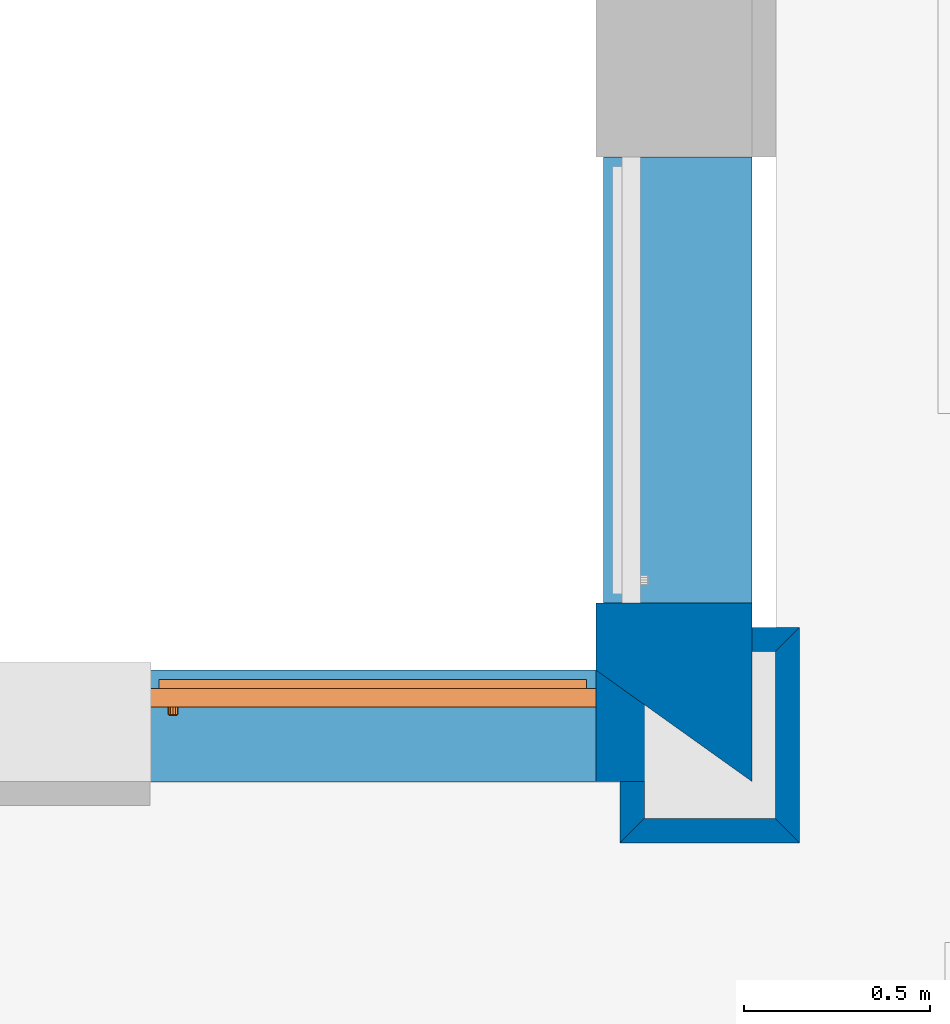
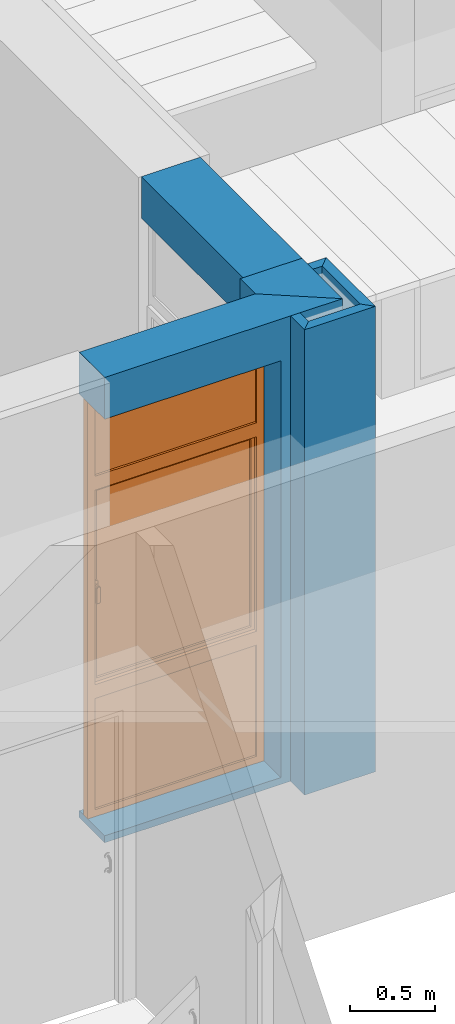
# One storey, part 33 of 68: 7 walls, 1 proxy, 2 openings.
"""IFC2X3 building model written with IfcOpenShell, lengths in millimetres."""

import ifcopenshell
import ifcopenshell.guid

model = None  # the IFC model being written
_history = None  # IfcOwnerHistory: only IFC2X3 demands one
_inside = {}  # id of a spatial element -> (the spatial element, [elements in it])
_under = {}  # id of a project, library or spatial element -> (it, [spatial elements below it])
_declared = {}  # id of a project -> (the project, [libraries it declares])
_typed = {}  # id of a type object -> (the type object, [elements of that type])
_made_of = {}  # id of a material, layer set ... -> (it, [elements and type objects made of it])


def new_model(schema):
    """Start an empty IFC model of exactly this schema.

    Asked for "IFC4X3", IfcOpenShell would pick the latest addendum, in which some entities
    have other attributes; the version numbers below select the first issue.
    IFC2X3 requires an IfcOwnerHistory on every rooted entity: one is made here for all.
    """
    global model, _history
    if schema == "IFC4X3":
        model = ifcopenshell.file(schema_version=(4, 3, 0, 0))
    else:
        model = ifcopenshell.file(schema=schema)
    _inside.clear()
    _under.clear()
    _declared.clear()
    _typed.clear()
    _made_of.clear()
    _history = None
    if model.schema == "IFC2X3":
        org = make("IfcOrganization", Name="unknown")
        user = make(
            "IfcPersonAndOrganization",
            ThePerson=make("IfcPerson", FamilyName="unknown"),
            TheOrganization=org,
        )
        app = make(
            "IfcApplication",
            ApplicationDeveloper=org,
            Version="unknown",
            ApplicationFullName="unknown",
            ApplicationIdentifier="unknown",
        )
        _history = make(
            "IfcOwnerHistory",
            OwningUser=user,
            OwningApplication=app,
            ChangeAction="ADDED",
            CreationDate=0,
        )
    return model


def make(cls, **values):
    """One entity of the class cls with the attributes given. An attribute that is None is left unset."""
    return model.create_entity(
        cls, **{name: value for name, value in values.items() if value is not None}
    )


def entity(cls, *values):
    """Any entity or typed value of the class cls, its attributes in the order of the schema. None: left unset."""
    e = model.create_entity(cls)
    for i, value in enumerate(values):
        if value is not None:
            e[i] = value
    return e


def rooted(cls, **values):
    """An entity with a GlobalId (a new one), such as an element, a storey or a relation."""
    return make(cls, GlobalId=ifcopenshell.guid.new(), OwnerHistory=_history, **values)


def si_unit(unit_type, name, prefix=None):
    """IfcSIUnit, for example si_unit("LENGTHUNIT", "METRE", prefix="MILLI")."""
    return make("IfcSIUnit", UnitType=unit_type, Prefix=prefix, Name=name)


def converted_unit(unit_type, name, factor, base, dimensions=None, offset=None):
    """IfcConversionBasedUnit, such as the inch: factor (a typed value) times the base unit."""
    return make(
        "IfcConversionBasedUnit"
        if offset is None
        else "IfcConversionBasedUnitWithOffset",
        ConversionOffset=offset,
        Dimensions=None
        if dimensions is None
        else entity("IfcDimensionalExponents", *dimensions),
        UnitType=unit_type,
        Name=name,
        ConversionFactor=make(
            "IfcMeasureWithUnit", ValueComponent=factor, UnitComponent=base
        ),
    )


def derived_unit(unit_type, elements):
    """IfcDerivedUnit: a product of units, each with its exponent."""
    return make(
        "IfcDerivedUnit",
        Elements=[
            make("IfcDerivedUnitElement", Unit=unit, Exponent=power)
            for unit, power in elements
        ],
        UnitType=unit_type,
    )


def money_unit(currency):
    """IfcMonetaryUnit."""
    return make("IfcMonetaryUnit", Currency=currency)


def assignment(units):
    """IfcUnitAssignment: the units of a project."""
    return None if units is None else make("IfcUnitAssignment", Units=units)


def point(xyz):
    """IfcCartesianPoint."""
    return None if xyz is None else make("IfcCartesianPoint", Coordinates=xyz)


def direction(xyz):
    """IfcDirection."""
    return None if xyz is None else make("IfcDirection", DirectionRatios=xyz)


def frame(location, z_axis=None, x_axis=None):
    """IfcAxis2Placement3D, a coordinate frame: its origin and axes. An axis left out is left unset."""
    return make(
        "IfcAxis2Placement3D",
        Location=point(location),
        Axis=direction(z_axis),
        RefDirection=direction(x_axis),
    )


def frame_2d(location, x_axis=None):
    """IfcAxis2Placement2D, a coordinate frame in the plane: its origin and x axis."""
    return make(
        "IfcAxis2Placement2D", Location=point(location), RefDirection=direction(x_axis)
    )


def origin_with_axes():
    """The frame at (0, 0, 0) with the z axis (0, 0, 1) and the x axis (1, 0, 0) written out."""
    return frame((0.0, 0.0, 0.0), z_axis=(0.0, 0.0, 1.0), x_axis=(1.0, 0.0, 0.0))


def origin_2d_with_axis():
    """The frame at (0, 0) in the plane with the x axis (1, 0) written out."""
    return frame_2d((0.0, 0.0), x_axis=(1.0, 0.0))


def place(relative_to, where):
    """IfcLocalPlacement: puts the frame where relative to a parent placement (None: the world)."""
    return make(
        "IfcLocalPlacement", PlacementRelTo=relative_to, RelativePlacement=where
    )


def context(
    kind, dimensions, precision=None, world=None, true_north=None, identifier=None
):
    """IfcGeometricRepresentationContext, for example the 3D "Model" context."""
    return make(
        "IfcGeometricRepresentationContext",
        ContextIdentifier=identifier,
        ContextType=kind,
        CoordinateSpaceDimension=dimensions,
        Precision=precision,
        WorldCoordinateSystem=world,
        TrueNorth=true_north,
    )


def subcontext(parent, identifier, kind, view, scale=None):
    """IfcGeometricRepresentationSubContext, for example "Body" below "Model"."""
    return make(
        "IfcGeometricRepresentationSubContext",
        ContextIdentifier=identifier,
        ContextType=kind,
        ParentContext=parent,
        TargetScale=scale,
        TargetView=view,
    )


def project(units=None, contexts=None):
    """IfcProject with its units and contexts."""
    return rooted(
        "IfcProject",
        Name="project",
        RepresentationContexts=contexts,
        UnitsInContext=assignment(units),
    )


def spatial(cls, under=None, at=None, **own):
    """A site, building, storey or space (cls), placed at a placement, below another one or the project."""
    s = rooted(cls, ObjectPlacement=at, **own)
    if under is not None:
        _under.setdefault(under.id(), (under, []))[1].append(s)
    return s


def polyline(points):
    """IfcPolyline through the points."""
    return make("IfcPolyline", Points=[point(p) for p in points])


def profile(cls, at=None, kind="AREA", **sizes):
    """A parametric profile (cls). Its sizes go by their IFC names, for example OverallWidth=200.0."""
    return make(cls, ProfileType=kind, Position=at, **sizes)


def rectangle(**sizes):
    """IfcRectangleProfileDef."""
    return profile("IfcRectangleProfileDef", **sizes)


def outline(outer, holes=None, kind="AREA"):
    """IfcArbitraryClosedProfileDef: a profile drawn as a closed curve; with holes, ...WithVoids."""
    if holes is None:
        return make("IfcArbitraryClosedProfileDef", ProfileType=kind, OuterCurve=outer)
    return make(
        "IfcArbitraryProfileDefWithVoids",
        ProfileType=kind,
        OuterCurve=outer,
        InnerCurves=holes,
    )


def extrude(swept, where, along, depth):
    """IfcExtrudedAreaSolid: the profile swept, set in the frame where, extruded along a direction by depth."""
    return make(
        "IfcExtrudedAreaSolid",
        SweptArea=swept,
        Position=where,
        ExtrudedDirection=direction(along),
        Depth=depth,
    )


def faces_of(points, faces, orient=None, outer=None):
    """IfcFace entities. A face is a list of loops; a loop is a list of indices into points, from 0.

    orient and outer hold one flag for each loop. By default every Orientation is true, the
    first loop of a face is its IfcFaceOuterBound and the others are IfcFaceBound.
    """
    made = []
    for i, loops in enumerate(faces):
        bounds = []
        for j, loop in enumerate(loops):
            is_outer = j == 0 if outer is None else outer[i][j]
            bounds.append(
                make(
                    "IfcFaceOuterBound" if is_outer else "IfcFaceBound",
                    Bound=make("IfcPolyLoop", Polygon=[points[k] for k in loop]),
                    Orientation=True if orient is None else orient[i][j],
                )
            )
        made.append(make("IfcFace", Bounds=bounds))
    return made


def open_shell(faces, orient=None, outer=None):
    """The faces of one IfcOpenShell. surface_model builds it on its shared points."""
    return ("IfcOpenShell", faces, orient, outer)


def faceted_brep(points, faces, orient=None, outer=None, voids=None):
    """IfcFacetedBrep: a solid bounded by flat faces; with voids (closed shells), ...WithVoids."""
    shared = [point(p) for p in points]
    hull = make("IfcClosedShell", CfsFaces=faces_of(shared, faces, orient, outer))
    if voids is None:
        return make("IfcFacetedBrep", Outer=hull)
    return make(
        "IfcFacetedBrepWithVoids",
        Outer=hull,
        Voids=[
            make(cls, CfsFaces=faces_of(shared, fs, o, b)) for cls, fs, o, b in voids
        ],
    )


def surface_model(cls, points, shells):
    """IfcFaceBasedSurfaceModel or IfcShellBasedSurfaceModel (cls): surfaces that need not close."""
    shared = [point(p) for p in points]
    made = [make(c, CfsFaces=faces_of(shared, fs, o, b)) for c, fs, o, b in shells]
    if cls == "IfcFaceBasedSurfaceModel":
        return make(cls, FbsmFaces=made)
    return make(cls, SbsmBoundary=made)


def shape(context_of_items, identifier, shape_type, items):
    """IfcShapeRepresentation: the items that make up one representation, for example the "Body"."""
    return make(
        "IfcShapeRepresentation",
        ContextOfItems=context_of_items,
        RepresentationIdentifier=identifier,
        RepresentationType=shape_type,
        Items=items,
    )


def source(mapping_origin, context_of_items, identifier, shape_type, items):
    """IfcRepresentationMap: a shape defined once, which mapped items show again and again."""
    return make(
        "IfcRepresentationMap",
        MappingOrigin=mapping_origin,
        MappedRepresentation=shape(context_of_items, identifier, shape_type, items),
    )


def transform(
    local_origin,
    x_axis=None,
    y_axis=None,
    z_axis=None,
    scale=None,
    scale2=None,
    scale3=None,
    uniform=True,
):
    """IfcCartesianTransformationOperator3D, or its non-uniform kind. x_axis, y_axis, z_axis: its Axis1, 2, 3."""
    if uniform:
        return make(
            "IfcCartesianTransformationOperator3D",
            Axis1=direction(x_axis),
            Axis2=direction(y_axis),
            LocalOrigin=point(local_origin),
            Scale=scale,
            Axis3=direction(z_axis),
        )
    return make(
        "IfcCartesianTransformationOperator3DnonUniform",
        Axis1=direction(x_axis),
        Axis2=direction(y_axis),
        LocalOrigin=point(local_origin),
        Scale=scale,
        Axis3=direction(z_axis),
        Scale2=scale2,
        Scale3=scale3,
    )


def mapped(mapping_source, mapping_target):
    """IfcMappedItem: shows the shape of a source again, moved by a transform."""
    return make(
        "IfcMappedItem", MappingSource=mapping_source, MappingTarget=mapping_target
    )


def material(Name=None, Category=None):
    """IfcMaterial."""
    return make("IfcMaterial", Name=Name, Category=Category)


def layer(
    of_material, thickness, ventilated=None, Name=None, Category=None, Priority=None
):
    """IfcMaterialLayer: one layer of a wall or slab, of a material (None: an air gap)."""
    return make(
        "IfcMaterialLayer",
        Material=of_material,
        LayerThickness=thickness,
        IsVentilated=ventilated,
        Name=Name,
        Category=Category,
        Priority=Priority,
    )


def layer_set(layers, Name=None):
    """IfcMaterialLayerSet."""
    return make("IfcMaterialLayerSet", MaterialLayers=layers, LayerSetName=Name)


def layer_usage(for_layer_set, set_direction, sense, offset, extent=None):
    """IfcMaterialLayerSetUsage: how a layer set lies in its element."""
    return make(
        "IfcMaterialLayerSetUsage",
        ForLayerSet=for_layer_set,
        LayerSetDirection=set_direction,
        DirectionSense=sense,
        OffsetFromReferenceLine=offset,
        ReferenceExtent=extent,
    )


def made_of(thing, what):
    """Note that an element or type object is made of a material, layer set ...; save() writes the relation."""
    if what is not None:
        _made_of.setdefault(what.id(), (what, []))[1].append(thing)
    return thing


def type_object(cls, material=None, **own):
    """A type object (cls), such as IfcWallType, which elements share."""
    return made_of(rooted(cls, **own), material)


def element(
    cls,
    number,
    at=None,
    inside=None,
    cuts=None,
    type_object=None,
    material=None,
    context=None,
    identifier="Body",
    shape_type=None,
    held_by="IfcProductDefinitionShape",
    body=None,
    shapes=None,
    **own,
):
    """One element of the class cls, such as IfcWall. Its Tag is "e" and its number.

    at: its placement. inside: the storey or other place that contains it. cuts: it is an
    opening in that element (IfcRelVoidsElement). A single representation is given by context,
    identifier, shape_type and body (its items); several are given by shapes. held_by: the class
    of the entity that holds the representations. save() writes the other relations.
    """
    e = rooted(cls, Tag="e%d" % number, ObjectPlacement=at, **own)
    if body is not None:
        shapes = [shape(context, identifier, shape_type, body)]
    if shapes is not None:
        e.Representation = make(held_by, Representations=shapes)
    if inside is not None:
        _inside.setdefault(inside.id(), (inside, []))[1].append(e)
    if cuts is not None:
        rooted(
            "IfcRelVoidsElement", RelatingBuildingElement=cuts, RelatedOpeningElement=e
        )
    if type_object is not None:
        _typed.setdefault(type_object.id(), (type_object, []))[1].append(e)
    return made_of(e, material)


def fill(opening, filler):
    """IfcRelFillsElement: the door or window that sits in an opening."""
    return rooted(
        "IfcRelFillsElement",
        RelatingOpeningElement=opening,
        RelatedBuildingElement=filler,
    )


def aggregate(whole, parts):
    """IfcRelAggregates: a whole, such as a stair, and the parts it consists of."""
    return rooted("IfcRelAggregates", RelatingObject=whole, RelatedObjects=parts)


def save(model, path):
    """Write the relations noted so far, then the file.

    IfcRelAggregates (storeys below a building ...), IfcRelContainedInSpatialStructure (elements
    in a storey), IfcRelDefinesByType, IfcRelAssociatesMaterial and IfcRelDeclares: one each for
    every whole, place, type object, material and project.
    """
    for whole, parts in _under.values():
        aggregate(whole, parts)
    for where, things in _inside.values():
        rooted(
            "IfcRelContainedInSpatialStructure",
            RelatedElements=things,
            RelatingStructure=where,
        )
    for kind, things in _typed.values():
        rooted("IfcRelDefinesByType", RelatedObjects=things, RelatingType=kind)
    for what, things in _made_of.values():
        rooted("IfcRelAssociatesMaterial", RelatedObjects=things, RelatingMaterial=what)
    for by, libraries in _declared.values():
        rooted("IfcRelDeclares", RelatingContext=by, RelatedDefinitions=libraries)
    model.write(path)


model = new_model("IFC2X3")

# Units and contexts
model_context = context("Model", 3, precision=0.01, world=origin_with_axes(), true_north=direction((0.0, 1.0)))
body_context = subcontext(model_context, "Body", "Model", "MODEL_VIEW")
ifc_project = project(units=[si_unit("LENGTHUNIT", "METRE", prefix="MILLI"), si_unit("AREAUNIT", "SQUARE_METRE"), si_unit("VOLUMEUNIT", "CUBIC_METRE"), converted_unit("PLANEANGLEUNIT", "DEGREE", entity("IfcPlaneAngleMeasure", 0.0174532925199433), si_unit("PLANEANGLEUNIT", "RADIAN"), dimensions=[0, 0, 0, 0, 0, 0, 0]), money_unit("USD"), converted_unit("TIMEUNIT", "Year", entity("IfcTimeMeasure", 31557600.0), si_unit("TIMEUNIT", "SECOND"), dimensions=[0, 0, 1, 0, 0, 0, 0]), si_unit("MASSUNIT", "GRAM", prefix="KILO"), si_unit("THERMODYNAMICTEMPERATUREUNIT", "DEGREE_CELSIUS"), si_unit("LUMINOUSINTENSITYUNIT", "LUMEN"), si_unit("ENERGYUNIT", "JOULE", prefix="MEGA"), derived_unit("THERMALCONDUCTANCEUNIT", [(si_unit("POWERUNIT", "WATT"), 1), (si_unit("LENGTHUNIT", "METRE"), -1), (si_unit("THERMODYNAMICTEMPERATUREUNIT", "KELVIN"), -1)]), derived_unit("SPECIFICHEATCAPACITYUNIT", [(si_unit("ENERGYUNIT", "JOULE"), 1), (si_unit("MASSUNIT", "GRAM", prefix="KILO"), -1), (si_unit("THERMODYNAMICTEMPERATUREUNIT", "KELVIN"), -1)]), derived_unit("MASSDENSITYUNIT", [(si_unit("MASSUNIT", "GRAM", prefix="KILO"), 1), (si_unit("VOLUMEUNIT", "CUBIC_METRE"), -1)])], contexts=[model_context])

# Site, building, storey
site_placement = place(None, origin_with_axes())
site = spatial("IfcSite", under=ifc_project, at=site_placement, Name="Sitio", CompositionType="ELEMENT")
building_placement = place(site_placement, origin_with_axes())
building = spatial("IfcBuilding", under=site, at=building_placement, Name="Construcción", CompositionType="ELEMENT")
storey_placement = place(building_placement, origin_with_axes())
storey = spatial("IfcBuildingStorey", under=building, at=storey_placement, Name="PLANTA 1ª", CompositionType="ELEMENT", Elevation=0.0)

# Wall, opening, proxy
ifc_material_1 = material(Name="ARQ_AM246_Arrebossat_De_Guix")
ifc_layer_1 = layer(ifc_material_1, 20.0, ventilated="UNKNOWN")
ifc_material_2 = material(Name="ARQ_CE217_Gero")
ifc_layer_2 = layer(ifc_material_2, 110.0, ventilated="UNKNOWN")
ifc_material_3 = material(Name="ARQ_AI031_Aillament_Poliestireno expandido EPS")
ifc_layer_3 = layer(ifc_material_3, 100.0, ventilated="UNKNOWN")
ifc_material_4 = material(Name="ARQ_CE218_Ceramic")
ifc_layer_4 = layer(ifc_material_4, 50.0, ventilated="UNKNOWN")
ifc_layer_5 = layer(ifc_material_1, 20.0, ventilated="UNKNOWN")
ifc_layer_set_1 = layer_set([ifc_layer_1, ifc_layer_2, ifc_layer_3, ifc_layer_4, ifc_layer_5], Name="façana pati CR3 (ampit)")
ifc_layer_usage_1 = layer_usage(ifc_layer_set_1, "AXIS2", "POSITIVE", -300.0000000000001)
wall_type_1 = type_object("IfcWallType", Name="façana pati CR3 (ampit) 300", PredefinedType="NOTDEFINED")
wall_1_placement = place(storey_placement, frame((-1681.109004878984, -12338.97582371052, 0.0), z_axis=(0.0, 0.0, 1.0), x_axis=(-1.0, 0.0, 0.0)))
wall_1 = element("IfcWallStandardCase", 1, at=wall_1_placement, inside=storey, type_object=wall_type_1, material=ifc_layer_usage_1, Name="MS-201", context=body_context, shape_type="SweptSolid", body=[
    extrude(outline(polyline([(419.9999999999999, -300.0000000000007), (1620.000000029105, -300.0000000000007), (1620.000000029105, 0.0), (0.0, 0.0), (419.9999999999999, -300.0000000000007)])), origin_with_axes(), (0.0, 0.0, 1.0), 3350.0),
])
opening_1_placement = place(wall_1_placement, frame((1020.000000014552, 0.0, 50.0), z_axis=(0.0, 0.0, 1.0), x_axis=(1.0, 0.0, 0.0)))
opening_1 = element("IfcOpeningElement", 2, at=opening_1_placement, cuts=wall_1, Name="F01", context=body_context, shape_type="SweptSolid", body=[
    extrude(rectangle(XDim=1200.000000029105, YDim=3000.0, at=origin_2d_with_axis()), frame((0.0, -250.0, 1500.0), z_axis=(0.0, -1.0, 0.0), x_axis=(-1.0, 0.0, 0.0)), (0.0, 0.0, -1.0), 550.0),
    extrude(rectangle(XDim=1200.000000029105, YDim=3000.0, at=origin_2d_with_axis()), frame((0.0, -250.0, 1500.0), z_axis=(0.0, 1.0, 0.0), x_axis=(-1.0, 0.0, 0.0)), (0.0, 0.0, -1.0), 350.0000000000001),
])
building_element_proxy_type = type_object("IfcBuildingElementProxyType", Name="Ventana Vertical Multi-Faja 27", PredefinedType="NOTDEFINED")
shared_shape = source(origin_with_axes(), body_context, "Body", "SurfaceModel", [
    faceted_brep([(-575.0000000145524, 0.0, 925.0), (-550.0000000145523, 0.0, 925.0), (-550.0000000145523, 0.0, 850.0), (-550.0000000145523, 0.0, 50.00000000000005), (-600.0000000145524, 0.0, 50.00000000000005), (-600.0000000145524, 0.0, 2950.0), (-550.0000000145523, 0.0, 2950.0), (-550.0000000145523, 0.0, 2450.0), (-550.0000000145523, 0.0, 2375.0), (-575.0000000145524, 0.0, 2375.0), (-575.0000000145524, -25.00000000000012, 925.0), (-550.0000000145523, -25.00000000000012, 925.0), (-550.0000000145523, -25.00000000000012, 950.0000000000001), (-550.0000000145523, -50.00000000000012, 950.0000000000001), (-550.0000000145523, -50.00000000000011, 850.0), (-550.0000000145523, -50.00000000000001, 50.00000000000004), (-600.0000000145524, -50.00000000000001, 50.00000000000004), (-600.0000000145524, -50.00000000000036, 2950.0), (-550.0000000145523, -50.00000000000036, 2950.0), (-550.0000000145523, -50.0000000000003, 2450.0), (-550.0000000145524, -25.00000000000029, 2375.0), (-550.0000000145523, -50.00000000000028, 2350.0), (-550.0000000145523, -25.00000000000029, 2350.0), (-575.0000000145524, -25.00000000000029, 2375.0)], [[[0, 1, 2, 3, 4, 5, 6, 7, 8, 9]], [[0, 10, 11, 1]], [[11, 12, 13, 14, 2, 1]], [[3, 2, 14, 15]], [[4, 3, 15, 16]], [[5, 4, 16, 17]], [[6, 5, 17, 18]], [[7, 6, 18, 19]], [[20, 8, 7, 19, 21, 22]], [[20, 23, 9, 8]], [[9, 23, 10, 0]], [[22, 12, 11, 10, 23, 20]], [[22, 21, 13, 12]], [[17, 16, 15, 14, 13, 21, 19, 18]]]),
    faceted_brep([(575.0000000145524, 0.0, 925.0), (575.0000000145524, 0.0, 2375.0), (550.0000000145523, 0.0, 2375.0), (550.0000000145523, 0.0, 2450.0), (550.0000000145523, 0.0, 2950.0), (600.0000000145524, 0.0, 2950.0), (600.0000000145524, 0.0, 50.00000000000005), (550.0000000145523, 0.0, 50.00000000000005), (550.0000000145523, 0.0, 850.0), (550.0000000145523, 0.0, 925.0), (575.0000000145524, -25.00000000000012, 925.0), (575.0000000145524, -25.00000000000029, 2375.0), (550.0000000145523, -25.00000000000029, 2375.0), (550.0000000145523, -25.00000000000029, 2350.0), (550.0000000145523, -50.00000000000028, 2350.0), (550.0000000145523, -50.0000000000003, 2450.0), (550.0000000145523, -50.00000000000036, 2950.0), (600.0000000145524, -50.00000000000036, 2950.0), (600.0000000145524, -50.00000000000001, 50.00000000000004), (550.0000000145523, -50.00000000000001, 50.00000000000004), (550.0000000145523, -50.00000000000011, 850.0), (550.0000000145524, -25.00000000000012, 925.0), (550.0000000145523, -50.00000000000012, 950.0000000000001), (550.0000000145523, -25.00000000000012, 950.0000000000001)], [[[0, 1, 2, 3, 4, 5, 6, 7, 8, 9]], [[0, 10, 11, 1]], [[1, 11, 12, 2]], [[12, 13, 14, 15, 3, 2]], [[4, 3, 15, 16]], [[5, 4, 16, 17]], [[6, 5, 17, 18]], [[7, 6, 18, 19]], [[8, 7, 19, 20]], [[21, 9, 8, 20, 22, 23]], [[9, 21, 10, 0]], [[12, 11, 10, 21, 23, 13]], [[23, 22, 14, 13]], [[14, 22, 20, 19, 18, 17, 16, 15]]]),
    faceted_brep([(-550.0000000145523, -25.00000000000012, 950.0000000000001), (-550.0000000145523, -50.00000000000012, 950.0000000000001), (550.0000000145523, -50.00000000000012, 950.0000000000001), (550.0000000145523, -25.00000000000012, 950.0000000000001), (-550.0000000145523, -25.00000000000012, 925.0), (-550.0000000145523, 0.0, 925.0), (-550.0000000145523, 0.0, 850.0), (-550.0000000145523, -50.00000000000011, 850.0), (550.0000000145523, -50.00000000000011, 850.0), (550.0000000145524, -25.00000000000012, 925.0), (550.0000000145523, 0.0, 850.0), (550.0000000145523, 0.0, 925.0)], [[[0, 1, 2, 3]], [[4, 5, 6, 7, 1, 0]], [[1, 7, 8, 2]], [[9, 3, 2, 8, 10, 11]], [[9, 4, 0, 3]], [[5, 4, 9, 11]], [[11, 10, 6, 5]], [[6, 10, 8, 7]]]),
    faceted_brep([(-550.0000000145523, 0.0, 2375.0), (-550.0000000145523, 0.0, 2450.0), (550.0000000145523, 0.0, 2450.0), (550.0000000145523, 0.0, 2375.0), (-550.0000000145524, -25.00000000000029, 2375.0), (-550.0000000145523, -25.00000000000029, 2350.0), (-550.0000000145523, -50.00000000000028, 2350.0), (-550.0000000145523, -50.0000000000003, 2450.0), (550.0000000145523, -50.0000000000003, 2450.0), (550.0000000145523, -25.00000000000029, 2375.0), (550.0000000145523, -50.00000000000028, 2350.0), (550.0000000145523, -25.00000000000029, 2350.0)], [[[0, 1, 2, 3]], [[4, 5, 6, 7, 1, 0]], [[2, 1, 7, 8]], [[9, 3, 2, 8, 10, 11]], [[9, 4, 0, 3]], [[11, 5, 4, 9]], [[11, 10, 6, 5]], [[7, 6, 10, 8]]]),
    faceted_brep([(550.0000000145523, -50.00000000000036, 2950.0), (550.0000000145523, 0.0, 2950.0), (600.0000000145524, 0.0, 2950.0), (600.0000000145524, -50.00000000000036, 2950.0), (-550.0000000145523, -50.00000000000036, 2950.0), (-550.0000000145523, 0.0, 2950.0), (-600.0000000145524, 0.0, 2950.0), (-600.0000000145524, 0.0, 3000.0), (600.0000000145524, 0.0, 3000.0), (600.0000000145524, -50.00000000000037, 3000.0), (-600.0000000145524, -50.00000000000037, 3000.0), (-600.0000000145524, -50.00000000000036, 2950.0)], [[[0, 1, 2, 3]], [[4, 5, 1, 0]], [[1, 5, 6, 7, 8, 2]], [[3, 2, 8, 9]], [[0, 3, 9, 10, 11, 4]], [[11, 6, 5, 4]], [[10, 7, 6, 11]], [[9, 8, 7, 10]]]),
    faceted_brep([(-550.0000000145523, -50.00000000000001, 50.0), (-550.0000000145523, 0.0, 50.00000000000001), (-600.0000000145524, 0.0, 50.00000000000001), (-600.0000000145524, -50.00000000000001, 50.0), (550.0000000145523, -50.00000000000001, 50.0), (550.0000000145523, 0.0, 50.00000000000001), (600.0000000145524, 0.0, 50.00000000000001), (600.0000000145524, 0.0, 0.0), (-600.0000000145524, 0.0, 0.0), (-600.0000000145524, -50.0, 0.0), (600.0000000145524, -50.0, 0.0), (600.0000000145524, -50.00000000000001, 50.0)], [[[0, 1, 2, 3]], [[4, 5, 1, 0]], [[1, 5, 6, 7, 8, 2]], [[3, 2, 8, 9]], [[0, 3, 9, 10, 11, 4]], [[11, 6, 5, 4]], [[10, 7, 6, 11]], [[9, 8, 7, 10]]]),
    surface_model("IfcShellBasedSurfaceModel", [(-550.0000000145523, -35.0, 49.99999999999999), (550.0000000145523, -35.0, 49.99999999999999), (550.0000000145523, -35.0000000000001, 850.0), (-550.0000000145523, -35.0000000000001, 850.0)], [open_shell([[[0, 1, 2, 3]]])]),
    surface_model("IfcShellBasedSurfaceModel", [(-550.0000000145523, -15.0, 49.99999999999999), (-550.0000000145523, -15.0000000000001, 850.0), (550.0000000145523, -15.0000000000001, 850.0), (550.0000000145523, -15.0, 49.99999999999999)], [open_shell([[[0, 1, 2, 3]]])]),
    faceted_brep([(-521.5000000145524, -25.00000000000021, 1677.0), (-522.839745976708, -25.00000000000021, 1682.0), (-522.839745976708, -37.00000000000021, 1682.0), (-521.5000000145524, -37.00000000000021, 1677.0), (-521.5000000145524, -25.0000000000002, 1623.0), (-522.839745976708, -25.0000000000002, 1618.0), (-526.5000000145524, -25.0000000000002, 1614.339745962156), (-531.5000000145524, -25.0000000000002, 1613.0), (-543.5000000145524, -25.0000000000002, 1613.0), (-548.5000000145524, -25.0000000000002, 1614.339745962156), (-552.1602540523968, -25.0000000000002, 1618.0), (-553.5000000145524, -25.0000000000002, 1623.0), (-553.5000000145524, -25.00000000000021, 1677.0), (-552.1602540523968, -25.00000000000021, 1682.0), (-548.5000000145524, -25.00000000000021, 1685.660254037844), (-543.5000000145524, -25.00000000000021, 1687.0), (-531.5000000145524, -25.00000000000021, 1687.0), (-526.5000000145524, -25.00000000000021, 1685.660254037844), (-526.5000000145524, -37.00000000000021, 1685.660254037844), (-531.5000000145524, -37.00000000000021, 1687.0), (-543.5000000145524, -37.00000000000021, 1687.0), (-548.5000000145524, -37.00000000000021, 1685.660254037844), (-552.1602540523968, -37.00000000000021, 1682.0), (-553.5000000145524, -37.00000000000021, 1677.0), (-553.5000000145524, -37.0000000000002, 1623.0), (-552.1602540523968, -37.0000000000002, 1618.0), (-548.5000000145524, -37.0000000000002, 1614.339745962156), (-543.5000000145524, -37.0000000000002, 1613.0), (-531.5000000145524, -37.0000000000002, 1613.0), (-526.5000000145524, -37.0000000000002, 1614.339745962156), (-522.839745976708, -37.0000000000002, 1618.0), (-521.5000000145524, -37.0000000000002, 1623.0)], [[[0, 1, 2, 3]], [[0, 4, 5, 6, 7, 8, 9, 10, 11, 12, 13, 14, 15, 16, 17, 1]], [[1, 17, 18, 2]], [[3, 2, 18, 19, 20, 21, 22, 23, 24, 25, 26, 27, 28, 29, 30, 31]], [[4, 0, 3, 31]], [[5, 4, 31, 30]], [[6, 5, 30, 29]], [[7, 6, 29, 28]], [[8, 7, 28, 27]], [[9, 8, 27, 26]], [[10, 9, 26, 25]], [[11, 10, 25, 24]], [[12, 11, 24, 23]], [[13, 12, 23, 22]], [[14, 13, 22, 21]], [[15, 14, 21, 20]], [[16, 15, 20, 19]], [[17, 16, 19, 18]]]),
    faceted_brep([(-537.5000000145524, -37.0000000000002, 1663.5), (-544.2500000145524, -37.0000000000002, 1661.69134295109), (-544.2500000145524, -61.00000000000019, 1661.69134295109), (-537.5000000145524, -61.00000000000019, 1663.5), (-530.7500000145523, -37.0000000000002, 1661.69134295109), (-525.8086570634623, -37.0000000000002, 1656.75), (-524.0000000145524, -37.0000000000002, 1650.0), (-525.8086570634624, -37.0000000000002, 1643.25), (-530.7500000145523, -37.0000000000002, 1638.30865704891), (-537.5000000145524, -37.0000000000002, 1636.5), (-544.2500000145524, -37.0000000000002, 1638.30865704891), (-549.1913429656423, -37.0000000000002, 1643.25), (-551.0000000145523, -37.0000000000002, 1650.0), (-549.1913429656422, -37.0000000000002, 1656.75), (-549.1913429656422, -61.00000000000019, 1656.75), (-551.0000000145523, -61.00000000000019, 1650.0), (-549.1913429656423, -61.00000000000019, 1643.25), (-544.2500000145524, -61.00000000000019, 1638.30865704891), (-537.5000000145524, -61.00000000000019, 1636.5), (-530.7500000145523, -61.00000000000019, 1638.30865704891), (-525.8086570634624, -61.00000000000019, 1643.25), (-524.0000000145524, -61.00000000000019, 1650.0), (-525.8086570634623, -61.00000000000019, 1656.75), (-530.7500000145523, -61.00000000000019, 1661.69134295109)], [[[0, 1, 2, 3]], [[0, 4, 5, 6, 7, 8, 9, 10, 11, 12, 13, 1]], [[1, 13, 14, 2]], [[3, 2, 14, 15, 16, 17, 18, 19, 20, 21, 22, 23]], [[4, 0, 3, 23]], [[5, 4, 23, 22]], [[6, 5, 22, 21]], [[7, 6, 21, 20]], [[8, 7, 20, 19]], [[9, 8, 19, 18]], [[10, 9, 18, 17]], [[11, 10, 17, 16]], [[12, 11, 16, 15]], [[13, 12, 15, 14]]]),
    faceted_brep([(-526.0000000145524, -61.00000000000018, 1543.0), (-537.5000000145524, -61.00000000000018, 1540.0), (-549.0000000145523, -61.00000000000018, 1543.0), (-551.0000000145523, -61.00000000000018, 1546.0), (-551.0000000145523, -61.00000000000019, 1650.0), (-549.1913429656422, -61.00000000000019, 1656.75), (-544.2500000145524, -61.00000000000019, 1661.69134295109), (-537.5000000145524, -61.00000000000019, 1663.5), (-530.7500000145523, -61.00000000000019, 1661.69134295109), (-525.8086570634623, -61.00000000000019, 1656.75), (-524.0000000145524, -61.00000000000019, 1650.0), (-524.0000000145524, -61.00000000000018, 1546.0), (-525.9999999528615, -69.00000000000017, 1543.000000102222), (-537.4999999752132, -69.00000000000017, 1539.999999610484), (-548.9999999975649, -69.00000000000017, 1543.000000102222), (-551.0000003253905, -69.00000000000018, 1545.999999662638), (-551.0000003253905, -69.0000000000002, 1649.99999994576), (-549.1913430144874, -69.0000000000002, 1656.749999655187), (-544.2499996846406, -69.0000000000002, 1661.691342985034), (-537.4999999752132, -69.0000000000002, 1663.500000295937), (-530.7500002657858, -69.0000000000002, 1661.691342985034), (-525.808656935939, -69.0000000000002, 1656.749999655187), (-523.9999996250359, -69.0000000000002, 1649.99999994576), (-523.9999996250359, -69.00000000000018, 1545.999999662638), (-527.8625374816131, -71.99999956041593, 1545.61451963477), (-537.4999999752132, -71.99999956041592, 1543.100398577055), (-547.1374624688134, -71.99999956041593, 1545.61451963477), (-548.0000007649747, -71.99999956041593, 1546.908326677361), (-548.0000007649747, -71.99999956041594, 1649.605042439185), (-546.5016170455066, -71.99999956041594, 1655.197085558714), (-542.6970855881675, -71.99999956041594, 1659.001617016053), (-537.4999999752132, -71.99999956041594, 1660.394172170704), (-532.302914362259, -71.99999956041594, 1659.001617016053), (-528.4983829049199, -71.99999956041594, 1655.197085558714), (-526.9999991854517, -71.99999956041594, 1649.605042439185), (-526.9999991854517, -71.99999956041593, 1546.908326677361)], [[[0, 1, 2, 3, 4, 5, 6, 7, 8, 9, 10, 11]], [[1, 0, 12, 13]], [[2, 1, 13, 14]], [[3, 2, 14, 15]], [[4, 3, 15, 16]], [[5, 4, 16, 17]], [[6, 5, 17, 18]], [[7, 6, 18, 19]], [[8, 7, 19, 20]], [[9, 8, 20, 21]], [[10, 9, 21, 22]], [[11, 10, 22, 23]], [[0, 11, 23, 12]], [[13, 12, 24, 25]], [[14, 13, 25, 26]], [[15, 14, 26, 27]], [[16, 15, 27, 28]], [[17, 16, 28, 29]], [[18, 17, 29, 30]], [[19, 18, 30, 31]], [[20, 19, 31, 32]], [[21, 20, 32, 33]], [[22, 21, 33, 34]], [[23, 22, 34, 35]], [[12, 23, 35, 24]], [[26, 25, 24, 35, 34, 33, 32, 31, 30, 29, 28, 27]]]),
    faceted_brep([(-525.0000000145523, -25.00000000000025, 2325.0), (-525.0000000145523, 24.99999999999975, 2325.0), (-575.0000000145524, 24.99999999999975, 2325.0), (-575.0000000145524, -25.00000000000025, 2325.0), (-525.0000000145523, -25.00000000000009, 975.0000000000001), (-525.0000000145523, 24.99999999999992, 975.0000000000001), (-575.0000000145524, 24.99999999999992, 975.0000000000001), (-575.0000000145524, -25.00000000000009, 975.0000000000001)], [[[0, 1, 2, 3]], [[4, 5, 1, 0]], [[1, 5, 6, 2]], [[3, 2, 6, 7]], [[0, 3, 7, 4]], [[7, 6, 5, 4]]]),
    faceted_brep([(525.0000000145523, -25.00000000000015, 975.0000000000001), (525.0000000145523, 24.99999999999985, 975.0000000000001), (575.0000000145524, 24.99999999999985, 975.0000000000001), (575.0000000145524, -25.00000000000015, 975.0000000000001), (525.0000000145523, -25.00000000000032, 2325.0), (525.0000000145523, 24.99999999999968, 2325.0), (575.0000000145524, 24.99999999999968, 2325.0), (575.0000000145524, -25.00000000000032, 2325.0)], [[[0, 1, 2, 3]], [[4, 5, 1, 0]], [[1, 5, 6, 2]], [[3, 2, 6, 7]], [[0, 3, 7, 4]], [[7, 6, 5, 4]]]),
    faceted_brep([(575.0000000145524, -25.00000000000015, 925.0), (575.0000000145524, 24.99999999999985, 925.0), (575.0000000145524, 24.99999999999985, 975.0000000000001), (575.0000000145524, -25.00000000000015, 975.0000000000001), (-575.0000000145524, -25.00000000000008, 925.0), (-575.0000000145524, 24.99999999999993, 925.0), (-575.0000000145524, 24.99999999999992, 975.0000000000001), (-525.0000000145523, 24.99999999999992, 975.0000000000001), (525.0000000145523, 24.99999999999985, 975.0000000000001), (525.0000000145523, -25.00000000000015, 975.0000000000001), (-525.0000000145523, -25.00000000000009, 975.0000000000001), (-575.0000000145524, -25.00000000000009, 975.0000000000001)], [[[0, 1, 2, 3]], [[4, 5, 1, 0]], [[1, 5, 6, 7, 8, 2]], [[3, 2, 8, 9]], [[0, 3, 9, 10, 11, 4]], [[11, 6, 5, 4]], [[10, 7, 6, 11]], [[9, 8, 7, 10]]]),
    faceted_brep([(-575.0000000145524, -25.00000000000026, 2375.0), (-575.0000000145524, 24.99999999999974, 2375.0), (-575.0000000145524, 24.99999999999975, 2325.0), (-575.0000000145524, -25.00000000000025, 2325.0), (575.0000000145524, -25.00000000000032, 2375.0), (575.0000000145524, 24.99999999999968, 2375.0), (575.0000000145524, 24.99999999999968, 2325.0), (525.0000000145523, 24.99999999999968, 2325.0), (-525.0000000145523, 24.99999999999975, 2325.0), (-525.0000000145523, -25.00000000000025, 2325.0), (525.0000000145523, -25.00000000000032, 2325.0), (575.0000000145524, -25.00000000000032, 2325.0)], [[[0, 1, 2, 3]], [[4, 5, 1, 0]], [[1, 5, 6, 7, 8, 2]], [[3, 2, 8, 9]], [[0, 3, 9, 10, 11, 4]], [[11, 6, 5, 4]], [[10, 7, 6, 11]], [[9, 8, 7, 10]]]),
    surface_model("IfcShellBasedSurfaceModel", [(-525.0000000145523, -10.00000000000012, 975.0000000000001), (525.0000000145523, -10.00000000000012, 975.0000000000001), (525.0000000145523, -10.00000000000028, 2325.0), (-525.0000000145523, -10.00000000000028, 2325.0)], [open_shell([[[0, 1, 2, 3]]])]),
    surface_model("IfcShellBasedSurfaceModel", [(-525.0000000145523, 9.999999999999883, 975.0000000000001), (-525.0000000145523, 9.99999999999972, 2325.0), (525.0000000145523, 9.99999999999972, 2325.0), (525.0000000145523, 9.999999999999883, 975.0000000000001)], [open_shell([[[0, 1, 2, 3]]])]),
    surface_model("IfcShellBasedSurfaceModel", [(-550.0000000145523, -35.0000000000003, 2450.0), (550.0000000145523, -35.0000000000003, 2450.0), (550.0000000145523, -35.00000000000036, 2950.0), (-550.0000000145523, -35.00000000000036, 2950.0)], [open_shell([[[0, 1, 2, 3]]])]),
    surface_model("IfcShellBasedSurfaceModel", [(-550.0000000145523, -15.0000000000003, 2450.0), (-550.0000000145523, -15.00000000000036, 2950.0), (550.0000000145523, -15.00000000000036, 2950.0), (550.0000000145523, -15.0000000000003, 2450.0)], [open_shell([[[0, 1, 2, 3]]])]),
])
proxy_placement = place(opening_1_placement, frame((600.0000000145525, 0.0, 0.0), z_axis=(0.0, 0.0, 1.0), x_axis=(-1.0, 0.0, 0.0)))
proxy = element("IfcBuildingElementProxy", 3, at=proxy_placement, inside=storey, type_object=building_element_proxy_type, Name="F01", context=body_context, shape_type="MappedRepresentation", body=[
    mapped(shared_shape, transform((600.0000000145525, 250.0, 0.0))),
])
fill(opening_1, proxy)

# Wall
ifc_layer_6 = layer(ifc_material_2, 150.0, ventilated="UNKNOWN")
ifc_layer_7 = layer(ifc_material_3, 180.0, ventilated="UNKNOWN")
ifc_layer_8 = layer(ifc_material_4, 80.0, ventilated="UNKNOWN")
ifc_layer_9 = layer(ifc_material_1, 10.0, ventilated="UNKNOWN")
ifc_layer_set_2 = layer_set([ifc_layer_6, ifc_layer_7, ifc_layer_8, ifc_layer_9], Name="façana pati CR1")
ifc_layer_usage_2 = layer_usage(ifc_layer_set_2, "AXIS2", "POSITIVE", -420.0)
wall_type_2 = type_object("IfcWallType", Name="façana pati CR1 420", PredefinedType="NOTDEFINED")
wall_2_placement = place(storey_placement, frame((-1681.109004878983, -11858.97582371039, 0.0), z_axis=(0.0, 0.0, 1.0), x_axis=(0.0, -1.0, 0.0)))
element("IfcWallStandardCase", 4, at=wall_2_placement, inside=storey, type_object=wall_type_2, material=ifc_layer_usage_2, Name="MS-200", context=body_context, shape_type="SweptSolid", body=[
    extrude(outline(polyline([(0.0, -420.0000000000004), (180.0000000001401, -419.9999999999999), (480.000000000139, 0.0), (0.0, 0.0), (0.0, -420.0000000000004)])), origin_with_axes(), (0.0, 0.0, 1.0), 3350.0),
])

# Wall, opening
ifc_layer_10 = layer(ifc_material_1, 10.0, ventilated="UNKNOWN")
ifc_layer_11 = layer(ifc_material_2, 150.0, ventilated="UNKNOWN")
ifc_layer_12 = layer(ifc_material_3, 150.0, ventilated="UNKNOWN")
ifc_layer_13 = layer(ifc_material_4, 80.0, ventilated="UNKNOWN")
ifc_layer_14 = layer(ifc_material_1, 10.0, ventilated="UNKNOWN")
ifc_layer_set_3 = layer_set([ifc_layer_10, ifc_layer_11, ifc_layer_12, ifc_layer_13, ifc_layer_14], Name="façana pati CR1 (ampit)")
ifc_layer_usage_3 = layer_usage(ifc_layer_set_3, "AXIS2", "POSITIVE", -400.0)
wall_type_3 = type_object("IfcWallType", Name="façana pati CR1 (ampit) 400", PredefinedType="NOTDEFINED")
wall_3_placement = place(storey_placement, frame((-1681.109004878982, -10658.9758237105, 0.0), z_axis=(0.0, 0.0, 1.0), x_axis=(0.0, -1.0, 0.0)))
wall_3 = element("IfcWallStandardCase", 5, at=wall_3_placement, inside=storey, type_object=wall_type_3, material=ifc_layer_usage_3, Name="MS-199", context=body_context, shape_type="SweptSolid", body=[
    extrude(outline(polyline([(0.0, -399.9999999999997), (1199.999999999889, -400.0000000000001), (1199.999999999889, 0.0), (0.0, 0.0), (0.0, -399.9999999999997)])), origin_with_axes(), (0.0, 0.0, 1.0), 3350.0),
])
opening_2_placement = place(wall_3_placement, frame((599.9999999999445, 0.0, 50.0), z_axis=(0.0, 0.0, 1.0), x_axis=(1.0, 0.0, 0.0)))
element("IfcOpeningElement", 6, at=opening_2_placement, cuts=wall_3, Name="F01", context=body_context, shape_type="SweptSolid", body=[
    extrude(rectangle(XDim=1199.999999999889, YDim=3000.0, at=origin_2d_with_axis()), frame((0.0, -350.0000000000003, 1500.0), z_axis=(0.0, -1.0, 0.0), x_axis=(-1.0, 0.0, 0.0)), (0.0, 0.0, -1.0), 750.0),
    extrude(rectangle(XDim=1199.999999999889, YDim=3000.0, at=origin_2d_with_axis()), frame((0.0, -350.0000000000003, 1500.0), z_axis=(0.0, 1.0, 0.0), x_axis=(-1.0, 0.0, 0.0)), (0.0, 0.0, -1.0), 450.0),
])

# Walls
ifc_material_5 = material(Name="ARQ_FU093_Panellat_HPL")
ifc_layer_15 = layer(ifc_material_5, 6.0, ventilated="UNKNOWN")
ifc_material_6 = material(Name="ARQ_EN271_Camara_Aire")
ifc_layer_16 = layer(ifc_material_6, 6.0, ventilated="UNKNOWN")
ifc_material_7 = material(Name="Panel de Yeso Laminado")
ifc_layer_17 = layer(ifc_material_7, 13.0, ventilated="UNKNOWN")
ifc_material_8 = material(Name="ARQ_AI033_Aillament_Llana_De_Roca")
ifc_layer_18 = layer(ifc_material_8, 40.0, ventilated="UNKNOWN")
ifc_layer_set_4 = layer_set([ifc_layer_15, ifc_layer_16, ifc_layer_17, ifc_layer_18], Name="Pladur Tras 40 / 1N +HPL")
ifc_layer_usage_4 = layer_usage(ifc_layer_set_4, "AXIS2", "POSITIVE", -65.0)
wall_type_4 = type_object("IfcWallType", Name="Pladur Tras 40 / 1N +HPL 65", PredefinedType="NOTDEFINED")
wall_4_placement = place(storey_placement, frame((-1971.109006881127, -12338.97582371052, 0.0), z_axis=(0.0, 0.0, 1.0), x_axis=(0.0, -1.0, 0.0)))
element("IfcWallStandardCase", 7, at=wall_4_placement, inside=storey, type_object=wall_type_4, material=ifc_layer_usage_4, Name="MS-208", context=body_context, shape_type="SweptSolid", body=[
    extrude(outline(polyline([(0.0, -64.99999999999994), (165.000164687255, -64.99999999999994), (100.0001646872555, 0.0), (0.0, 0.0), (0.0, -64.99999999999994)])), origin_with_axes(), (0.0, 0.0, 1.0), 3350.0),
])
ifc_layer_usage_5 = layer_usage(ifc_layer_set_4, "AXIS2", "POSITIVE", -65.0)
wall_5_placement = place(storey_placement, frame((-1971.109006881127, -12438.97598839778, 0.0), z_axis=(0.0, 0.0, 1.0), x_axis=(1.0, 0.0, 0.0)))
element("IfcWallStandardCase", 8, at=wall_5_placement, inside=storey, type_object=wall_type_4, material=ifc_layer_usage_5, Name="MS-209", context=body_context, shape_type="SweptSolid", body=[
    extrude(outline(polyline([(-64.99999999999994, -64.9999999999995), (418.2148614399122, -64.9999999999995), (353.2148614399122, 0.0), (0.0, 0.0), (-64.99999999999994, -64.9999999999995)])), origin_with_axes(), (0.0, 0.0, 1.0), 3350.0),
])
ifc_layer_usage_6 = layer_usage(ifc_layer_set_4, "AXIS2", "POSITIVE", -65.0)
wall_6_placement = place(storey_placement, frame((-1617.894145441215, -12438.97598839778, 0.0), z_axis=(0.0, 0.0, 1.0), x_axis=(0.0, 1.0, 0.0)))
element("IfcWallStandardCase", 9, at=wall_6_placement, inside=storey, type_object=wall_type_4, material=ifc_layer_usage_6, Name="MS-210", context=body_context, shape_type="SweptSolid", body=[
    extrude(outline(polyline([(-64.9999999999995, -64.99999999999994), (515.0001651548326, -64.99999999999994), (450.0001651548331, 0.0), (0.0, 0.0), (-64.9999999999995, -64.99999999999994)])), origin_with_axes(), (0.0, 0.0, 1.0), 3350.0),
])
ifc_layer_usage_7 = layer_usage(ifc_layer_set_4, "AXIS2", "POSITIVE", -65.0)
wall_7_placement = place(storey_placement, frame((-1617.894145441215, -11988.97582324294, 0.0), z_axis=(0.0, 0.0, 1.0), x_axis=(-1.0, 0.0, 0.0)))
element("IfcWallStandardCase", 10, at=wall_7_placement, inside=storey, type_object=wall_type_4, material=ifc_layer_usage_7, Name="MS-211", context=body_context, shape_type="SweptSolid", body=[
    extrude(outline(polyline([(-64.99999999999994, -64.9999999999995), (63.21485943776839, -64.9999999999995), (63.21485943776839, 0.0), (0.0, 0.0), (-64.99999999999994, -64.9999999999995)])), origin_with_axes(), (0.0, 0.0, 1.0), 3350.0),
])

save(model, "model.ifc")
